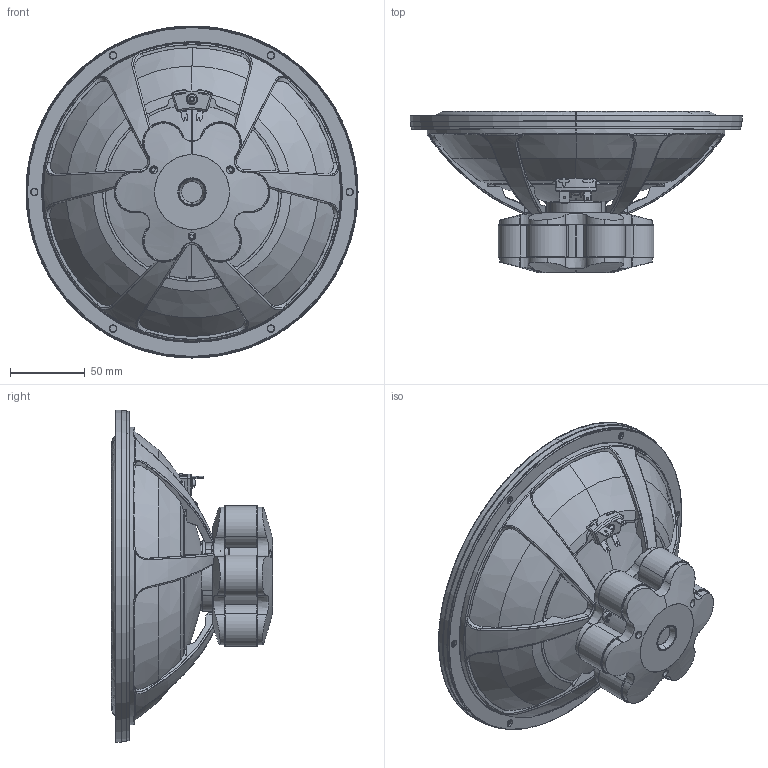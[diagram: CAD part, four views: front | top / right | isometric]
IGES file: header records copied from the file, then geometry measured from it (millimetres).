
Start section: SolidWorks IGES file using analytic representation for surfaces
Global section: file name: W:\TT\21WE\WEB 21WE_8582T00\21WE-8542T00.IGS; native system: SolidWorks 2019; preprocessor: SolidWorks 2019; author: mhn; date: 201215.094850; units: millimetre
Bounding box: 222 x 107.71 x 222 mm (x, y, z)
Surface area: 163720 mm2 (no closed solid volume)
Topology: 0 solids, 0 shells, 1315 faces, 18356 edges, 18319 vertices
Faces by surface type: bspline 720, revolution 595
